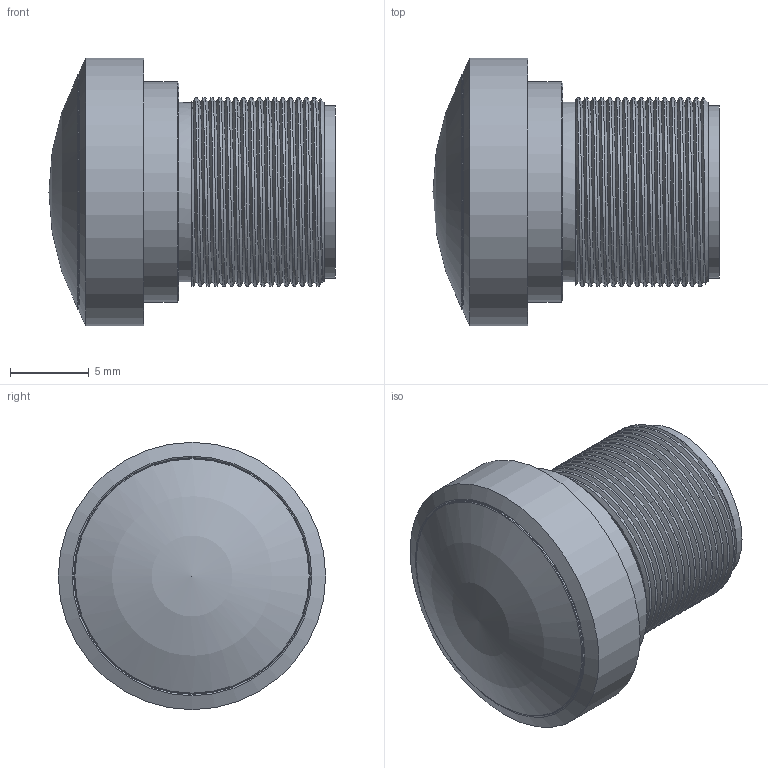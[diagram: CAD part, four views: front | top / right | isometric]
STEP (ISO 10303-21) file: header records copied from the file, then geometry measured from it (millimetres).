
FILE_DESCRIPTION(/* description */ (''),/* implementation_level */ '2;1');
FILE_NAME(/* name */ 'C:\Users\MaxHenkart\Desktop\Commonlands\Product\CIL212\CIL212-F2.2-M12ANIR v1.stp',/* time_stamp */ '2022-07-22T13:27:23-07:00',/* author */ ('MaxHenkart'),/* organization */ (''),/* preprocessor_version */ 'ST-DEVELOPER v19',/* originating_system */ 'Autodesk Inventor 2023',/* authorisation */ '');
FILE_SCHEMA (('AUTOMOTIVE_DESIGN { 1 0 10303 214 3 1 1 }'));
Length unit declared in the file: millimetre
Products named in the file (1): CIL212-F2.2-M12ANIR v1
Bounding box: 18.2 x 17 x 17 mm (x, y, z)
Volume: 2486.4 mm3; surface area: 1389.3 mm2
Topology: 1 solids, 1 shells, 54 faces, 132 edges, 86 vertices
Faces by surface type: cylinder 26, bspline 11, plane 9, cone 7, sphere 1
Full cylindrical faces by diameter (mm): 7.9 x1, 11 x1, 11.4 x1, 12 x16, 14 x1, 15 x1, 16 x1, 17 x1
Entity records: 7637 total; most frequent: CARTESIAN_POINT 6373, ORIENTED_EDGE 262, DIRECTION 190, EDGE_CURVE 131, VERTEX_POINT 86, AXIS2_PLACEMENT_3D 75, EDGE_LOOP 61, B_SPLINE_CURVE_WITH_KNOTS 60
